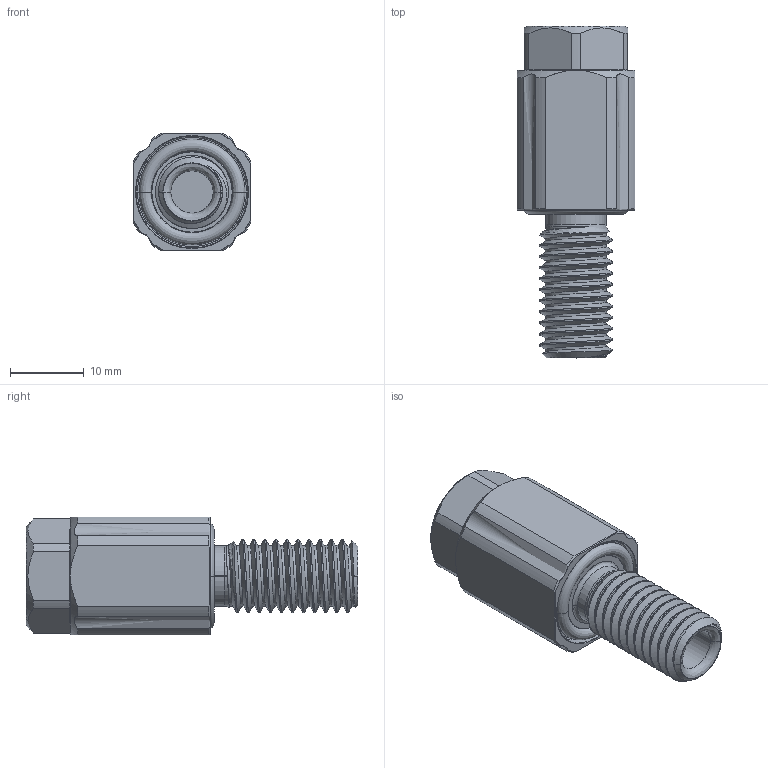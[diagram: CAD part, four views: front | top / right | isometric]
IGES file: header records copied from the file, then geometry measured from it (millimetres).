
Start section: SolidWorks IGES file using analytic representation for surfaces
Global section: file name: C:\Users\emill\Blue Robotics Dropbox\Eldin Miller-Stead\BR-Engineering\PROJECTS\WLP\MODELS\RELEASES\PUBLIC\WLP-M10-7.5MM-PUBLIC.igs; native system: SolidWorks 2020; preprocessor: SolidWorks 2020; author: emill; date: 210812.164312; units: foot
Bounding box: 16 x 45 x 16 mm (x, y, z)
Surface area: 3676.1 mm2 (no closed solid volume)
Topology: 0 solids, 0 shells, 126 faces, 1604 edges, 1604 vertices
Faces by surface type: revolution 78, bspline 48
